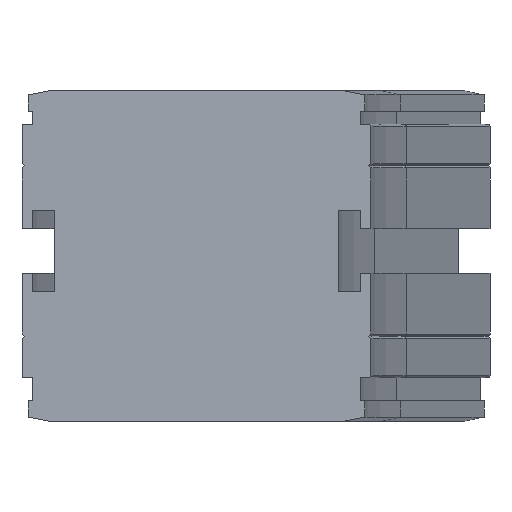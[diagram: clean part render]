
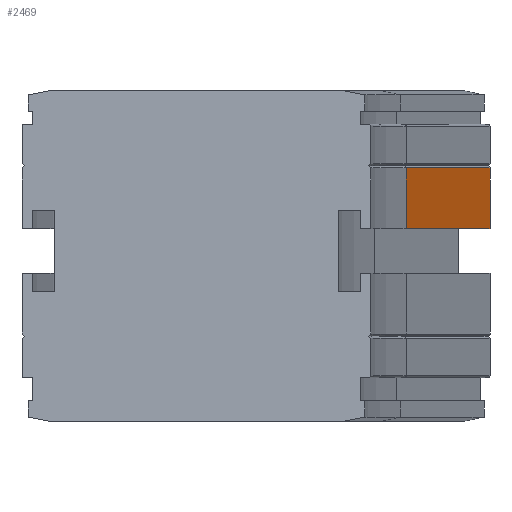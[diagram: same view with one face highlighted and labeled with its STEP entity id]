
A CAD part, left-side view. The second image highlights one B-rep face of the part: STEP entity #2469.
In plain terms, the highlighted planar face has unit normal (-0.259, -0.966, 0).
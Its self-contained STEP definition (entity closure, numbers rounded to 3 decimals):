
#2430=CARTESIAN_POINT('',(146.516,-51.757,-34.));
#2431=DIRECTION('',(-0.259,-0.966,0.));
#2432=DIRECTION('',(0.0,0.0,-1.0));
#2433=AXIS2_PLACEMENT_3D('',#2430,#2431,#2432);
#2434=PLANE('',#2433);
#2435=CARTESIAN_POINT('',(223.791,-72.463,-34.));
#2436=VERTEX_POINT('',#2435);
#2437=CARTESIAN_POINT('',(223.791,-72.463,-19.));
#2438=VERTEX_POINT('',#2437);
#2439=CARTESIAN_POINT('',(223.791,-72.463,-34.));
#2440=DIRECTION('',(0.0,0.0,1.0));
#2441=VECTOR('',#2440,15.);
#2442=LINE('',#2439,#2441);
#2443=EDGE_CURVE('',#2436,#2438,#2442,.T.);
#2444=ORIENTED_EDGE('',*,*,#2443,.T.);
#2445=CARTESIAN_POINT('',(146.516,-51.757,-19.));
#2446=VERTEX_POINT('',#2445);
#2447=CARTESIAN_POINT('',(146.516,-51.757,-19.));
#2448=DIRECTION('',(0.966,-0.259,0.0));
#2449=VECTOR('',#2448,80.);
#2450=LINE('',#2447,#2449);
#2451=EDGE_CURVE('',#2446,#2438,#2450,.T.);
#2452=ORIENTED_EDGE('',*,*,#2451,.F.);
#2453=CARTESIAN_POINT('',(146.516,-51.757,-34.));
#2454=VERTEX_POINT('',#2453);
#2455=CARTESIAN_POINT('',(146.516,-51.757,-34.));
#2456=DIRECTION('',(0.0,0.0,1.0));
#2457=VECTOR('',#2456,15.);
#2458=LINE('',#2455,#2457);
#2459=EDGE_CURVE('',#2454,#2446,#2458,.T.);
#2460=ORIENTED_EDGE('',*,*,#2459,.F.);
#2461=CARTESIAN_POINT('',(146.516,-51.757,-34.));
#2462=DIRECTION('',(0.966,-0.259,0.0));
#2463=VECTOR('',#2462,80.);
#2464=LINE('',#2461,#2463);
#2465=EDGE_CURVE('',#2454,#2436,#2464,.T.);
#2466=ORIENTED_EDGE('',*,*,#2465,.T.);
#2467=EDGE_LOOP('',(#2444,#2452,#2460,#2466));
#2468=FACE_OUTER_BOUND('',#2467,.T.);
#2469=ADVANCED_FACE('',(#2468),#2434,.T.);
